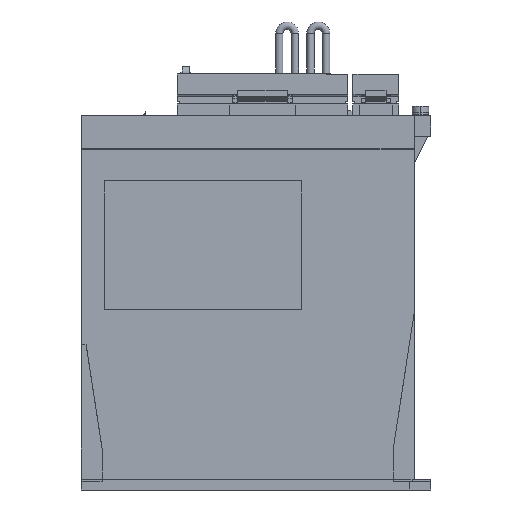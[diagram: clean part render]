
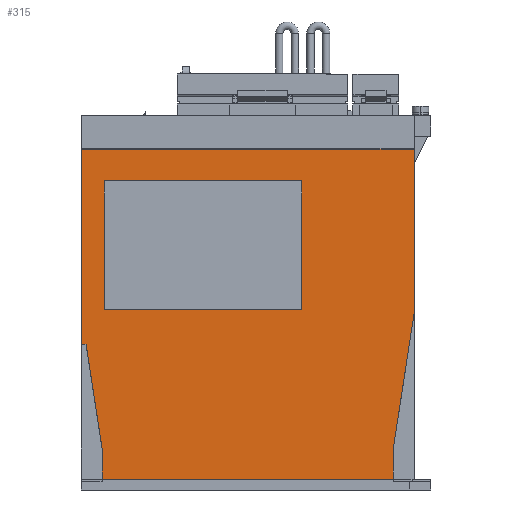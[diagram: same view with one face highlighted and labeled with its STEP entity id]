
A CAD part, left-side view. The second image highlights one B-rep face of the part: STEP entity #315.
In plain terms, the highlighted planar face has unit normal (-1, 0, 0).
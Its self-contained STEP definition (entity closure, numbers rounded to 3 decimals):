
#280 = VERTEX_POINT ( 'NONE', #22278 ) ;
#281 = ORIENTED_EDGE ( 'NONE', *, *, #282, .T. ) ;
#282 = EDGE_CURVE ( 'NONE', #280, #283, #22277, .T. ) ;
#283 = VERTEX_POINT ( 'NONE', #22273 ) ;
#284 = ORIENTED_EDGE ( 'NONE', *, *, #285, .T. ) ;
#285 = EDGE_CURVE ( 'NONE', #283, #286, #22272, .T. ) ;
#286 = VERTEX_POINT ( 'NONE', #22268 ) ;
#287 = ORIENTED_EDGE ( 'NONE', *, *, #288, .F. ) ;
#288 = EDGE_CURVE ( 'NONE', #289, #286, #22267, .T. ) ;
#289 = VERTEX_POINT ( 'NONE', #22263 ) ;
#290 = ORIENTED_EDGE ( 'NONE', *, *, #58219, .T. ) ;
#291 = VERTEX_POINT ( 'NONE', #22262 ) ;
#292 = ORIENTED_EDGE ( 'NONE', *, *, #293, .F. ) ;
#293 = EDGE_CURVE ( 'NONE', #294, #319, #22261, .T. ) ;
#294 = VERTEX_POINT ( 'NONE', #22257 ) ;
#295 = ORIENTED_EDGE ( 'NONE', *, *, #296, .F. ) ;
#296 = EDGE_CURVE ( 'NONE', #297, #294, #22256, .T. ) ;
#297 = VERTEX_POINT ( 'NONE', #22252 ) ;
#298 = ORIENTED_EDGE ( 'NONE', *, *, #299, .F. ) ;
#299 = EDGE_CURVE ( 'NONE', #291, #297, #22251, .T. ) ;
#300 = EDGE_LOOP ( 'NONE', ( #301, #302, #58221, #281, #284, #287, #290, #58218, #58217 ) ) ;
#301 = ORIENTED_EDGE ( 'NONE', *, *, #603, .T. ) ;
#302 = ORIENTED_EDGE ( 'NONE', *, *, #303, .T. ) ;
#303 = EDGE_CURVE ( 'NONE', #629, #58220, #22310, .T. ) ;
#315 = ADVANCED_FACE ( 'NONE', ( #22287, #22286 ), #22285, .F. ) ;
#316 = EDGE_LOOP ( 'NONE', ( #317, #292, #295, #298 ) ) ;
#317 = ORIENTED_EDGE ( 'NONE', *, *, #318, .F. ) ;
#318 = EDGE_CURVE ( 'NONE', #319, #291, #22344, .T. ) ;
#319 = VERTEX_POINT ( 'NONE', #22340 ) ;
#603 = EDGE_CURVE ( 'NONE', #604, #629, #22777, .T. ) ;
#604 = VERTEX_POINT ( 'NONE', #22773 ) ;
#629 = VERTEX_POINT ( 'NONE', #22795 ) ;
#11181 = VERTEX_POINT ( 'NONE', #38896 ) ;
#11218 = EDGE_CURVE ( 'NONE', #11181, #11219, #38982, .T. ) ;
#11219 = VERTEX_POINT ( 'NONE', #38978 ) ;
#22250 = CARTESIAN_POINT ( 'NONE',  ( -5., -6., 148.6 ) ) ;
#22251 = LINE ( 'NONE', #22250, #22312 ) ;
#22252 = CARTESIAN_POINT ( 'NONE',  ( -5., -6., 148.6 ) ) ;
#22253 = DIRECTION ( 'NONE',  ( 0., 0., -1. ) ) ;
#22254 = VECTOR ( 'NONE', #22253, 1000. ) ;
#22255 = CARTESIAN_POINT ( 'NONE',  ( -5., -6., 86.6 ) ) ;
#22256 = LINE ( 'NONE', #22255, #22254 ) ;
#22257 = CARTESIAN_POINT ( 'NONE',  ( -5., -6., 86.6 ) ) ;
#22258 = DIRECTION ( 'NONE',  ( 0., -1., 0. ) ) ;
#22259 = VECTOR ( 'NONE', #22258, 1000. ) ;
#22260 = CARTESIAN_POINT ( 'NONE',  ( -5., -6., 86.6 ) ) ;
#22261 = LINE ( 'NONE', #22260, #22259 ) ;
#22262 = CARTESIAN_POINT ( 'NONE',  ( -5., -101., 148.6 ) ) ;
#22263 = CARTESIAN_POINT ( 'NONE',  ( -5., -145., 20. ) ) ;
#22264 = DIRECTION ( 'NONE',  ( 0., 0., -1. ) ) ;
#22265 = VECTOR ( 'NONE', #22264, 1000. ) ;
#22266 = CARTESIAN_POINT ( 'NONE',  ( -5., -145., 20. ) ) ;
#22267 = LINE ( 'NONE', #22266, #22265 ) ;
#22268 = CARTESIAN_POINT ( 'NONE',  ( -5., -145., 5.2 ) ) ;
#22269 = DIRECTION ( 'NONE',  ( 0., -1., 0. ) ) ;
#22270 = VECTOR ( 'NONE', #22269, 1000. ) ;
#22271 = CARTESIAN_POINT ( 'NONE',  ( -5., -5., 5.2 ) ) ;
#22272 = LINE ( 'NONE', #22271, #22270 ) ;
#22273 = CARTESIAN_POINT ( 'NONE',  ( -5., -5., 5.2 ) ) ;
#22274 = DIRECTION ( 'NONE',  ( 0., 0., -1. ) ) ;
#22275 = VECTOR ( 'NONE', #22274, 1000. ) ;
#22276 = CARTESIAN_POINT ( 'NONE',  ( -5., -5., 20. ) ) ;
#22277 = LINE ( 'NONE', #22276, #22275 ) ;
#22278 = CARTESIAN_POINT ( 'NONE',  ( -5., -5., 20. ) ) ;
#22281 = DIRECTION ( 'NONE',  ( 0., 1., 0. ) ) ;
#22282 = DIRECTION ( 'NONE',  ( 1., 0., 0. ) ) ;
#22283 = CARTESIAN_POINT ( 'NONE',  ( -5., 5., 347.576 ) ) ;
#22284 = AXIS2_PLACEMENT_3D ( 'NONE', #22283, #22282, #22281 ) ;
#22285 = PLANE ( 'NONE',  #22284 ) ;
#22286 = FACE_OUTER_BOUND ( 'NONE', #300, .T. ) ;
#22287 = FACE_BOUND ( 'NONE', #316, .T. ) ;
#22307 = DIRECTION ( 'NONE',  ( 0., -1., 0. ) ) ;
#22308 = VECTOR ( 'NONE', #22307, 1000. ) ;
#22309 = CARTESIAN_POINT ( 'NONE',  ( -5., 5., 70. ) ) ;
#22310 = LINE ( 'NONE', #22309, #22308 ) ;
#22311 = DIRECTION ( 'NONE',  ( 0., 1., 0. ) ) ;
#22312 = VECTOR ( 'NONE', #22311, 1000. ) ;
#22340 = CARTESIAN_POINT ( 'NONE',  ( -5., -101., 86.6 ) ) ;
#22341 = DIRECTION ( 'NONE',  ( 0., 0., 1. ) ) ;
#22342 = VECTOR ( 'NONE', #22341, 1000. ) ;
#22343 = CARTESIAN_POINT ( 'NONE',  ( -5., -101., 86.6 ) ) ;
#22344 = LINE ( 'NONE', #22343, #22342 ) ;
#22773 = CARTESIAN_POINT ( 'NONE',  ( -5., 5., 163.8 ) ) ;
#22774 = DIRECTION ( 'NONE',  ( 0., 0., -1. ) ) ;
#22775 = VECTOR ( 'NONE', #22774, 1000. ) ;
#22776 = CARTESIAN_POINT ( 'NONE',  ( -5., 5., 347.576 ) ) ;
#22777 = LINE ( 'NONE', #22776, #22775 ) ;
#22795 = CARTESIAN_POINT ( 'NONE',  ( -5., 5., 70. ) ) ;
#38896 = CARTESIAN_POINT ( 'NONE',  ( -5., -155., 163.8 ) ) ;
#38978 = CARTESIAN_POINT ( 'NONE',  ( -5., -155., 85. ) ) ;
#38979 = DIRECTION ( 'NONE',  ( 0., 0., -1. ) ) ;
#38980 = VECTOR ( 'NONE', #38979, 1000. ) ;
#38981 = CARTESIAN_POINT ( 'NONE',  ( -5., -155., 347.576 ) ) ;
#38982 = LINE ( 'NONE', #38981, #38980 ) ;
#42174 = EDGE_CURVE ( 'NONE', #280, #58220, #56715, .T. ) ;
#56712 = DIRECTION ( 'NONE',  ( 0., 0.152, 0.988 ) ) ;
#56713 = VECTOR ( 'NONE', #56712, 1000. ) ;
#56714 = CARTESIAN_POINT ( 'NONE',  ( -5., -5., 20. ) ) ;
#56715 = LINE ( 'NONE', #56714, #56713 ) ;
#56825 = CARTESIAN_POINT ( 'NONE',  ( -5., 2.692, 70. ) ) ;
#56826 = DIRECTION ( 'NONE',  ( 0., -0.152, 0.988 ) ) ;
#56827 = VECTOR ( 'NONE', #56826, 1000. ) ;
#56828 = CARTESIAN_POINT ( 'NONE',  ( -5., -145., 20. ) ) ;
#56829 = LINE ( 'NONE', #56828, #56827 ) ;
#56830 = DIRECTION ( 'NONE',  ( 0., -1., 0. ) ) ;
#56831 = VECTOR ( 'NONE', #56830, 1000. ) ;
#56832 = CARTESIAN_POINT ( 'NONE',  ( -5., 5., 163.8 ) ) ;
#56833 = LINE ( 'NONE', #56832, #56831 ) ;
#58216 = EDGE_CURVE ( 'NONE', #604, #11181, #56833, .T. ) ;
#58217 = ORIENTED_EDGE ( 'NONE', *, *, #58216, .F. ) ;
#58218 = ORIENTED_EDGE ( 'NONE', *, *, #11218, .F. ) ;
#58219 = EDGE_CURVE ( 'NONE', #289, #11219, #56829, .T. ) ;
#58220 = VERTEX_POINT ( 'NONE', #56825 ) ;
#58221 = ORIENTED_EDGE ( 'NONE', *, *, #42174, .F. ) ;
